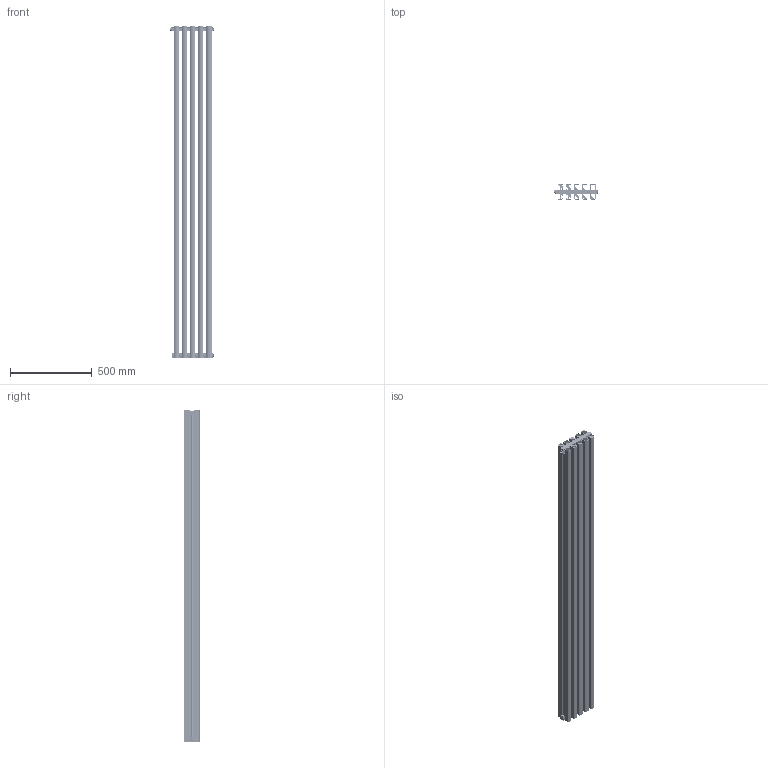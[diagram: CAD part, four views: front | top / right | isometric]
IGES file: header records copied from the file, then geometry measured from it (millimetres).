
Start section: SolidWorks IGES file using analytic representation for surfaces
Global section: file name: S:\RicercaSviluppo\01_DISEGNI\2_DISEGNI\02_ELEMENTI\39_TONALE\39_99_RICHIESTE CLIENTI\39_99_DRL\22-07-24\TONALE 2000_5.IGS; native system: SolidWorks 2024; preprocessor: SolidWorks 2024; author: massimo; date: 240722.103532; units: millimetre
Bounding box: 266.3 x 95 x 2037 mm (x, y, z)
Surface area: 7359623 mm2 (no closed solid volume)
Topology: 0 solids, 0 shells, 3167 faces, 38838 edges, 38778 vertices
Faces by surface type: bspline 1589, revolution 1578
